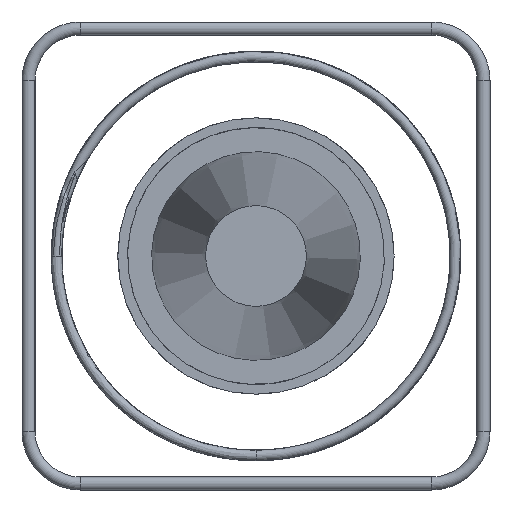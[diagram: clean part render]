
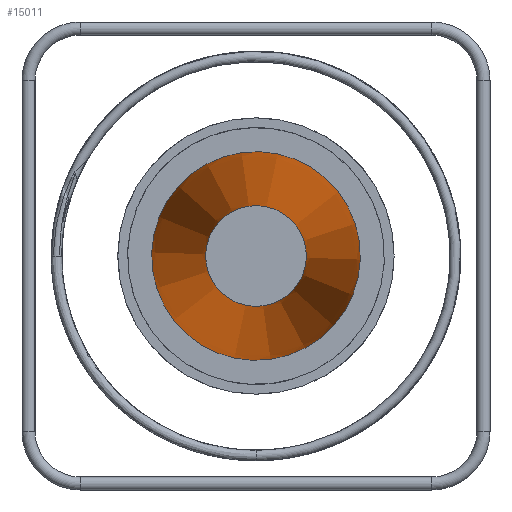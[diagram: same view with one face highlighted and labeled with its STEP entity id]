
A CAD part, left-side view. The second image highlights one B-rep face of the part: STEP entity #15011.
In plain terms, the highlighted conical face has half-angle 2 degrees and reference radius 119 mm.
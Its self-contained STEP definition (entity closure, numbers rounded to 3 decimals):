
#21=CONICAL_SURFACE('',#15792,119.,2.);
#3552=FACE_BOUND('',#5353,.T.);
#4386=FACE_OUTER_BOUND('',#5352,.T.);
#5352=EDGE_LOOP('',(#13493));
#5353=EDGE_LOOP('',(#13494));
#5901=CIRCLE('',#15791,160.5);
#5902=CIRCLE('',#15793,77.5);
#7344=VERTEX_POINT('',#34738);
#7345=VERTEX_POINT('',#34741);
#9441=EDGE_CURVE('',#7344,#7344,#5901,.T.);
#9442=EDGE_CURVE('',#7345,#7345,#5902,.T.);
#13493=ORIENTED_EDGE('',*,*,#9442,.F.);
#13494=ORIENTED_EDGE('',*,*,#9441,.T.);
#15011=ADVANCED_FACE('',(#4386,#3552),#21,.T.);
#15791=AXIS2_PLACEMENT_3D('',#34739,#18209,#18210);
#15792=AXIS2_PLACEMENT_3D('',#34740,#18211,#18212);
#15793=AXIS2_PLACEMENT_3D('',#34742,#18213,#18214);
#18209=DIRECTION('center_axis',(-1.,0.,0.));
#18210=DIRECTION('ref_axis',(0.,0.374,-0.927));
#18211=DIRECTION('center_axis',(1.,0.,0.));
#18212=DIRECTION('ref_axis',(0.,0.927,0.374));
#18213=DIRECTION('center_axis',(-1.,0.,0.));
#18214=DIRECTION('ref_axis',(0.,0.374,-0.927));
#34738=CARTESIAN_POINT('',(-685.,148.831,60.08));
#34739=CARTESIAN_POINT('Origin',(-685.,0.,0.));
#34740=CARTESIAN_POINT('Origin',(-1873.5,0.,0.));
#34741=CARTESIAN_POINT('',(-3062.,71.865,29.011));
#34742=CARTESIAN_POINT('Origin',(-3062.,0.,0.));
